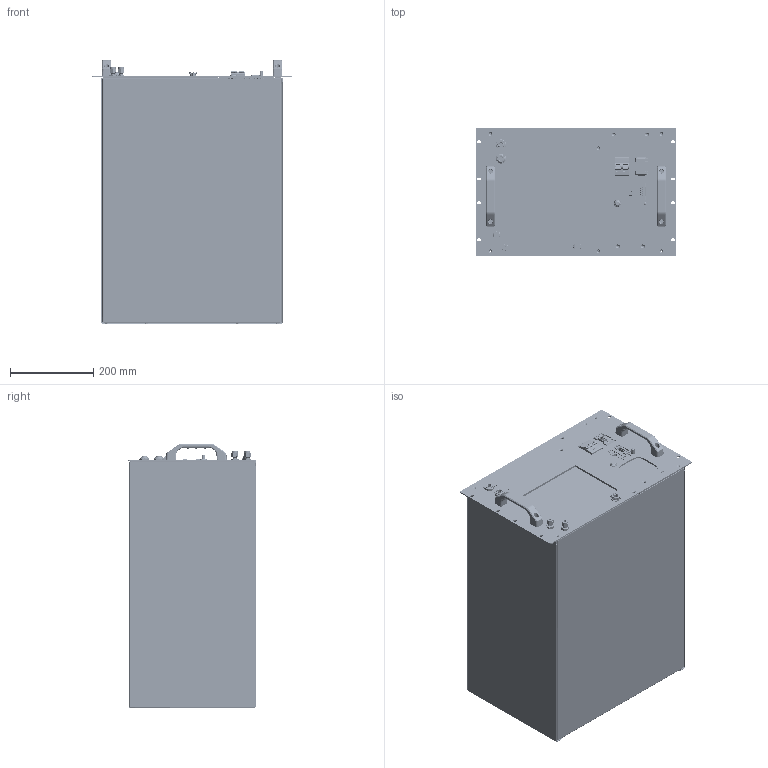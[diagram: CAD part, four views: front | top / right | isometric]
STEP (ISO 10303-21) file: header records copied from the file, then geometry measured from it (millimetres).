
FILE_DESCRIPTION(/* description */ ('EL 2.1 ASSEMBLY DRAWING'),/* implementation_level */ '2;1');
FILE_NAME(/* name */ '\\actasrv3\Enapter\2_Products_Engineering\R&D\EL21\1_Mechanical\1_CAD\ELE21_R1_simplified.stp',/* time_stamp */ '2020-10-09T11:31:04+02:00',/* author */ ('lorenzo.giobbi'),/* organization */ (''),/* preprocessor_version */ 'ST-DEVELOPER v18.1',/* originating_system */ 'Autodesk Inventor 2021',/* authorisation */ 'MOD');
FILE_SCHEMA (('AUTOMOTIVE_DESIGN { 1 0 10303 214 3 1 1 }'));
Products named in the file (36): ELE21-DRW-A1000-REV01; ELE21-DRW-A0008-REV01; ELE21-DRW-00022-REV01; ELE21-DRW-00079-REV00; ELE21-DRW-00018-REV01; ELE21-DRW-00021-REV02; ELE21-DRW-00019-REV04; CPC PLCD120M10; PM1208E; PM1210E; SS-400-61; CP100_030_50; 10447A1_M4_open; 10447A1_M6_X; 10447A1_M5_X; CP100_040_50; ELE21-DRW-A0001-REV02; ELE21-DRW-00011-REV04; ELE21-DRW-00063-REV00; RS 700-1962; RS 700-1968; RS 700-1971; RF Solutions ANT-24G-S18-SMAM; L-Com ECF504-SC6; ABB S202-C13; Phoenix Contact 0707264; RS 820-7596; Phoenix Contact 1840560; 10447A1_M4_X; ELE21-DRW-00078-REV00; ELE21-DRW-00013-REV01; ELE21-DRW-00049-REV00; ELE21-DRW-00050-REV00; ELE21-DRW-00020-REV06; Elesa RHRG-1S_120_84; ELE21-DRW-00023-REV02
Assembly tree (89 placements, depth 3):
  ELE21-DRW-A1000-REV01
    ELE21-DRW-A0008-REV01
      ELE21-DRW-00022-REV01
      ELE21-DRW-00079-REV00  x2
      ELE21-DRW-00078-REV00
      ELE21-DRW-00018-REV01
      ELE21-DRW-00021-REV02  x2
      ELE21-DRW-00019-REV04
      CPC PLCD120M10
      PM1208E
      PM1210E
      SS-400-61  x2
      CP100_040_50  x16
      10447A1_M4_open  x21
      CP100_030_50  x6
      10447A1_M5_X  x4
      10447A1_M6_X  x4
    ELE21-DRW-A0001-REV02
      ELE21-DRW-00011-REV04
      ELE21-DRW-00063-REV00
      RS 700-1962
      RS 700-1968
      RS 700-1971
      RF Solutions ANT-24G-S18-SMAM
      L-Com ECF504-SC6
      ABB S202-C13
      Phoenix Contact 0707264
      RS 820-7596
      Phoenix Contact 1840560
      10447A1_M4_X  x4
      ELE21-DRW-00078-REV00
      ELE21-DRW-00013-REV01
      ELE21-DRW-00049-REV00
      ELE21-DRW-00050-REV00
    ELE21-DRW-00020-REV06
    Elesa RHRG-1S_120_84  x2
    ELE21-DRW-00023-REV02
Bounding box: 482 x 307 x 633.6 mm (x, y, z)
Volume: 2463186.9 mm3; surface area: 3054354.5 mm2
Topology: 91 solids, 91 shells, 9695 faces, 25534 edges, 16486 vertices
Faces by surface type: plane 5501, cylinder 2203, bspline 1272, torus 327, cone 317, sphere 75
Full cylindrical faces by diameter (mm): 0.434 x1, 0.457 x1, 1.27 x1, 1.6 x4, 2.286 x1, 2.5 x2, 2.8 x3, 3 x14, 3.175 x2, 3.2 x4, 3.242 x25, 3.4 x2, 3.5 x6, 3.6 x2, 3.7 x2, 3.8 x3, 4 x71, 4.134 x4, 4.2 x5, 4.5 x71, 4.775 x1, 4.826 x2, 4.917 x4, 5 x22, 5.45 x3, 5.461 x1, 5.5 x17, 5.537 x1, 5.84 x1, 6 x5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
Entity records: 380444 total; most frequent: CARTESIAN_POINT 163562, ORIENTED_EDGE 46672, DIRECTION 40753, EDGE_CURVE 23336, VERTEX_POINT 15098, LINE 15061, VECTOR 15061, AXIS2_PLACEMENT_3D 12846
